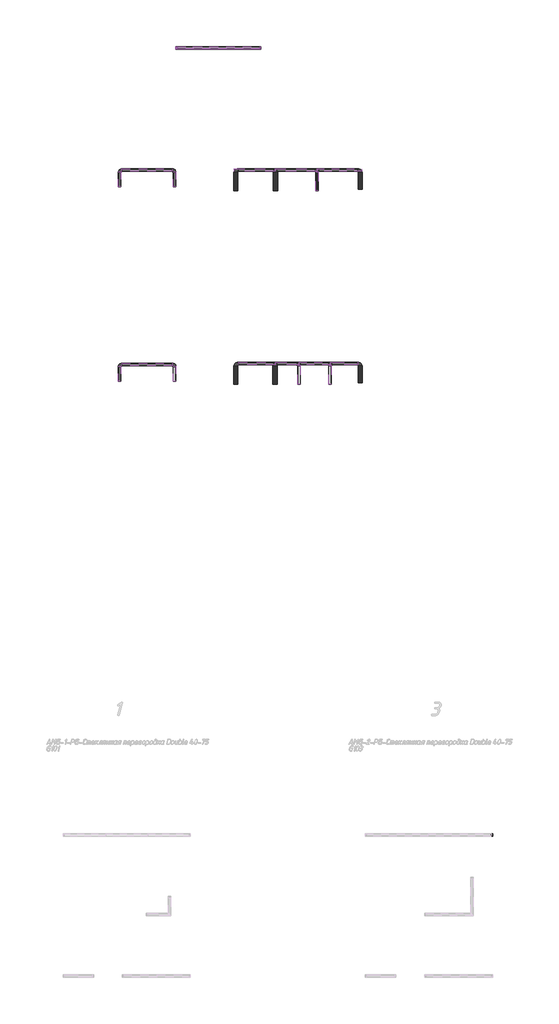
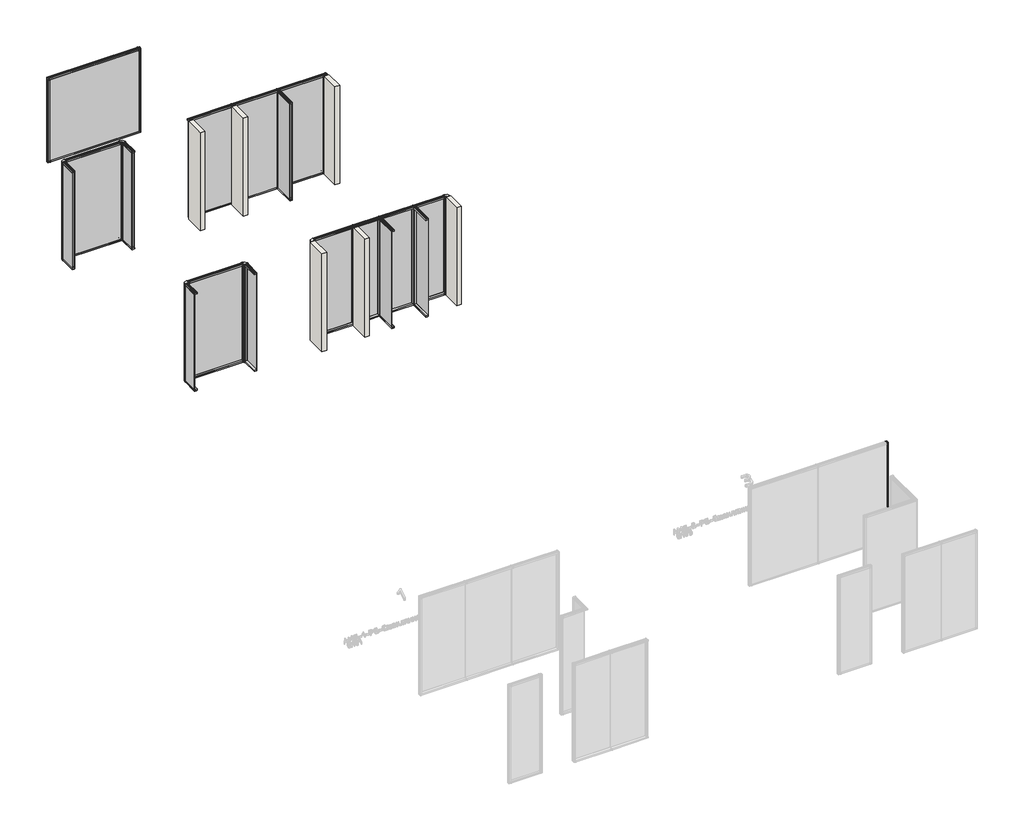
# One storey, part 4 of 22: 53 members, 18 plates, 6 walls.
"""IFC4 building model written with IfcOpenShell, lengths in millimetres."""

from ifc_helpers import new_model, si_unit, origin, origin_with_axes, place, context, project, spatial, polyline, outline, extrude, transform, mapped, element, save
from components import member_062cc966, member_fef25791, member_421a079b, member_e943b3b3, member_93659e9b, member_138647c5, member_008be93e, member_601b8065, member_9edbbed2, member_3a6aa04e, member_36226d30, member_97b0498a, member_a947193e, member_beae20de, member_ba2e8d0c, member_126d7119, member_75674783, member_5e3bff07, member_2dd30770, member_b86de139, member_6870855c, member_839cf36c, member_3ddb2ab7, member_db58016d, member_c9db6dfb, member_577e8d6c, member_68f1cff3, member_d9408e26, member_e7198678, member_f8c30631, member_a8e8a51c, member_a761dcac, member_c1f15f48, member_c068abe3, member_bfae6610, member_e13317de, member_a1fde92c, member_34305b3e, member_fbdf62f5, member_3e5a0c3d, member_f9fa1088, member_f9dfea10, plate_32f0bc6f, plate_69bc51ca, plate_83797a7f, plate_f4132c37, plate_8dcf47b7, plate_fd8922d6, plate_d2337f3b, plate_43e82b48, plate_e51c2bcd, plate_1867f2ba, plate_aca7a658, plate_48e0c3a0, plate_586497ee, plate_0a2dd671, plate_1d4f74eb, plate_3e321998, plate_18017d12, plate_9caeeabb

model = new_model("IFC4")

# Units and contexts
model_context = context("Model", 3, world=origin())
ifc_project = project(units=[si_unit("LENGTHUNIT", "METRE", prefix="MILLI")], contexts=[model_context])

# Site, building, storey
site = spatial("IfcSite", under=ifc_project)
building = spatial("IfcBuilding", under=site)
storey = spatial("IfcBuildingStorey", under=building, Name="Уровень 1", Elevation=0.0)

# Members
placement = place(None, origin())
member_shape = member_062cc966(model_context)
element("IfcMember", 1, ObjectType="Прямоугольный импост : 3-AMG-2-Профиль 40Х75 Верх П", at=placement, inside=storey, context=model_context, shape_type="MappedRepresentation", body=[
    mapped(member_shape, transform((-23109.1896408, -2395.8466032, 41.1), x_axis=(1.0, 0.0, 0.0), y_axis=(0.0, -1.0, 0.0), z_axis=(0.0, 0.0, -1.0))),
])
member_2_shape = member_fef25791(model_context)
element("IfcMember", 2, ObjectType="Прямоугольный импост : AMG-1-Профиль 105Х85 3 грани средний 2 стороны", at=placement, inside=storey, context=model_context, shape_type="MappedRepresentation", body=[
    mapped(member_2_shape, transform((-29516.9435792, 11475.0004129, 41.1), x_axis=(1.0, 0.0, 0.0), y_axis=(0.0, -1.0, 0.0), z_axis=(0.0, 0.0, -1.0))),
])
element("IfcMember", 3, ObjectType="Прямоугольный импост : AMG-1-Профиль 105Х85 3 грани средний 3 стороны Л", at=placement, inside=storey, context=model_context, shape_type="MappedRepresentation", body=[
    mapped(member_2_shape, transform((-28816.9435792, 11475.0004129, 41.1), x_axis=(1.0, 0.0, 0.0), y_axis=(0.0, -1.0, 0.0), z_axis=(0.0, 0.0, -1.0))),
])
member_3_shape = member_421a079b(model_context)
element("IfcMember", 4, ObjectType="Прямоугольный импост : AMG-1-Профиль 105Х85 3 грани средний 3 стороны П", at=placement, inside=storey, context=model_context, shape_type="MappedRepresentation", body=[
    mapped(member_3_shape, transform((-27896.9435792, 11475.0004129, 41.1), x_axis=(1.0, 0.0, 0.0), y_axis=(0.0, -1.0, 0.0), z_axis=(0.0, 0.0, -1.0))),
])
member_4_shape = member_e943b3b3(model_context)
element("IfcMember", 5, ObjectType="Прямоугольный импост : 1-AMG-1-Профиль 40Х75 Верх П", at=placement, inside=storey, context=model_context, shape_type="MappedRepresentation", body=[
    mapped(member_4_shape, transform((-28816.945923, 11425.8504127, 2800.0), x_axis=(0.0, 0.0, 1.0), y_axis=(1.0, 0.0, 0.0), z_axis=(0.0, 1.0, 0.0))),
])
member_5_shape = member_93659e9b(model_context)
element("IfcMember", 6, ObjectType="Прямоугольный импост : 1-AMG-1-Профиль 40Х75 Низ Л", at=placement, inside=storey, context=model_context, shape_type="MappedRepresentation", body=[
    mapped(member_5_shape, transform((-28816.945923, 10865.8504127, 0.0), x_axis=(0.0, 0.0, -1.0), y_axis=(1.0, 0.0, 0.0), z_axis=(0.0, -1.0, 0.0))),
])
member_6_shape = member_138647c5(model_context)
element("IfcMember", 7, ObjectType="Прямоугольный импост : 1-AMG-1-Профиль 40Х75 Верх П", at=placement, inside=storey, context=model_context, shape_type="MappedRepresentation", body=[
    mapped(member_6_shape, transform((-27896.9412354, 11425.8504127, 2800.0), x_axis=(0.0, 0.0, 1.0), y_axis=(1.0, 0.0, 0.0), z_axis=(0.0, 1.0, 0.0))),
])
member_7_shape = member_008be93e(model_context)
element("IfcMember", 8, ObjectType="Прямоугольный импост : 1-AMG-1-Профиль 40Х75 Низ Л", at=placement, inside=storey, context=model_context, shape_type="MappedRepresentation", body=[
    mapped(member_7_shape, transform((-27896.9412354, 10865.8504127, 0.0), x_axis=(0.0, 0.0, -1.0), y_axis=(1.0, 0.0, 0.0), z_axis=(0.0, -1.0, 0.0))),
])
member_8_shape = member_601b8065(model_context)
element("IfcMember", 9, ObjectType="Прямоугольный импост : AMG-2-Профиль 105Х85 3 грани средний 2 стороны", at=placement, inside=storey, context=model_context, shape_type="MappedRepresentation", body=[
    mapped(member_8_shape, transform((-29506.9435792, 17175.0004129, 41.1), x_axis=(1.0, 0.0, 0.0), y_axis=(0.0, -1.0, 0.0), z_axis=(0.0, 0.0, -1.0))),
])
member_9_shape = member_9edbbed2(model_context)
element("IfcMember", 10, ObjectType="Прямоугольный импост : AMG-2-Профиль 105Х85 3 грани средний 3 стороны", at=placement, inside=storey, context=model_context, shape_type="MappedRepresentation", body=[
    mapped(member_9_shape, transform((-28281.9435792, 17175.0004129, 41.1), x_axis=(1.0, 0.0, 0.0), y_axis=(0.0, -1.0, 0.0), z_axis=(0.0, 0.0, -1.0))),
])
member_10_shape = member_3a6aa04e(model_context)
element("IfcMember", 11, ObjectType="Прямоугольный импост : 3-AMG-2-Профиль 40Х75 Верх П", at=placement, inside=storey, context=model_context, shape_type="MappedRepresentation", body=[
    mapped(member_10_shape, transform((-28281.9435792, 17127.2004127, 2800.0), x_axis=(0.0, 0.0, 1.0), y_axis=(1.0, 0.0, 0.0), z_axis=(0.0, 1.0, 0.0))),
])
element("IfcMember", 12, ObjectType="Прямоугольный импост : 3-AMG-2-Профиль 40Х75 Низ Л", at=placement, inside=storey, context=model_context, shape_type="MappedRepresentation", body=[
    mapped(member_10_shape, transform((-28281.9435792, 16567.2004127, 0.0), x_axis=(0.0, 0.0, -1.0), y_axis=(1.0, 0.0, 0.0), z_axis=(0.0, -1.0, 0.0))),
])
member_11_shape = member_36226d30(model_context)
element("IfcMember", 13, ObjectType="Прямоугольный импост : 3-AMG-2-Профиль 40Х75 Верх П", at=placement, inside=storey, context=model_context, shape_type="MappedRepresentation", body=[
    mapped(member_11_shape, transform((-26966.9435792, 17175.0004129, 2800.0), x_axis=(0.0, 0.0, 1.0), y_axis=(0.0, -1.0, 0.0), z_axis=(1.0, 0.0, 0.0))),
])
member_12_shape = member_97b0498a(model_context)
element("IfcMember", 14, ObjectType="Прямоугольный импост : 1-AMG-1-Профиль 40Х75 Низ Л", at=placement, inside=storey, context=model_context, shape_type="MappedRepresentation", body=[
    mapped(member_12_shape, transform((-28816.9435792, 11475.0004129, 0.0), x_axis=(0.0, 0.0, -1.0), y_axis=(0.0, -1.0, 0.0), z_axis=(-1.0, 0.0, 0.0))),
])
member_13_shape = member_a947193e(model_context)
element("IfcMember", 15, ObjectType="Прямоугольный импост : 1-AMG-1-Профиль 40Х75 Верх П", at=placement, inside=storey, context=model_context, shape_type="MappedRepresentation", body=[
    mapped(member_13_shape, transform((-27896.9435792, 11475.0004129, 2800.0), x_axis=(0.0, 0.0, 1.0), y_axis=(0.0, -1.0, 0.0), z_axis=(1.0, 0.0, 0.0))),
])
member_14_shape = member_beae20de(model_context)
element("IfcMember", 16, ObjectType="Прямоугольный импост : 1-AMG-1-Профиль 40Х75 Низ Л", at=placement, inside=storey, context=model_context, shape_type="MappedRepresentation", body=[
    mapped(member_14_shape, transform((-30608.0482668, 11475.0004129, 0.0), x_axis=(0.0, 0.0, -1.0), y_axis=(0.0, -1.0, 0.0), z_axis=(-1.0, 0.0, 0.0))),
])
member_15_shape = member_ba2e8d0c(model_context)
element("IfcMember", 17, ObjectType="Прямоугольный импост : 1-AMG-1-Профиль 40Х75 Верх П", at=placement, inside=storey, context=model_context, shape_type="MappedRepresentation", body=[
    mapped(member_15_shape, transform((-28816.9435792, 11475.0004129, 2800.0), x_axis=(0.0, 0.0, 1.0), y_axis=(0.0, -1.0, 0.0), z_axis=(1.0, 0.0, 0.0))),
])
member_16_shape = member_126d7119(model_context)
element("IfcMember", 18, ObjectType="Прямоугольный импост : 1-AMG-1-Профиль 40Х75 Низ Л", at=placement, inside=storey, context=model_context, shape_type="MappedRepresentation", body=[
    mapped(member_16_shape, transform((-29516.9435792, 11475.0004129, 0.0), x_axis=(0.0, 0.0, -1.0), y_axis=(0.0, -1.0, 0.0), z_axis=(-1.0, 0.0, 0.0))),
])
member_17_shape = member_75674783(model_context)
element("IfcMember", 19, ObjectType="Прямоугольный импост : 1-AMG-1-Профиль 40Х75 Низ Л", at=placement, inside=storey, context=model_context, shape_type="MappedRepresentation", body=[
    mapped(member_17_shape, transform((-27896.9435792, 11475.0004129, 0.0), x_axis=(0.0, 0.0, -1.0), y_axis=(0.0, -1.0, 0.0), z_axis=(-1.0, 0.0, 0.0))),
])
member_18_shape = member_5e3bff07(model_context)
element("IfcMember", 20, ObjectType="Прямоугольный импост : 1-AMG-1-Профиль 40Х75 Верх П", at=placement, inside=storey, context=model_context, shape_type="MappedRepresentation", body=[
    mapped(member_18_shape, transform((-27075.8388917, 11475.0004129, 2800.0), x_axis=(0.0, 0.0, 1.0), y_axis=(0.0, -1.0, 0.0), z_axis=(1.0, 0.0, 0.0))),
])
member_19_shape = member_2dd30770(model_context)
element("IfcMember", 21, ObjectType="Прямоугольный импост : AMG-1-Профиль 85Х85 Угловой 1 сторона Верт П", at=placement, inside=storey, context=model_context, shape_type="MappedRepresentation", body=[
    mapped(member_19_shape, transform((-26966.9435792, 11475.0004129, 0.0), x_axis=(1.0, 0.0, 0.0), y_axis=(0.0, -1.0, 0.0), z_axis=(0.0, 0.0, -1.0))),
])
member_20_shape = member_b86de139(model_context)
element("IfcMember", 22, ObjectType="Прямоугольный импост : 1-AMG-1-Профиль 40Х75 Верх П", at=placement, inside=storey, context=model_context, shape_type="MappedRepresentation", body=[
    mapped(member_20_shape, transform((-29516.9435792, 11475.0004129, 2800.0), x_axis=(0.0, 0.0, 1.0), y_axis=(0.0, -1.0, 0.0), z_axis=(1.0, 0.0, 0.0))),
])
element("IfcMember", 23, ObjectType="Прямоугольный импост : AMG-1-Профиль 85Х85 Угловой 1 сторона Верт Л", at=placement, inside=storey, context=model_context, shape_type="MappedRepresentation", body=[
    mapped(member_19_shape, transform((-30716.9435792, 11475.0004129, 2800.0), x_axis=(-1.0, 0.0, 0.0), y_axis=(0.0, -1.0, 0.0), z_axis=(0.0, 0.0, 1.0))),
])
member_21_shape = member_6870855c(model_context)
element("IfcMember", 24, ObjectType="Прямоугольный импост : AMG-1-Профиль 85Х85 Угловой 2 стороны Верт Л", at=placement, inside=storey, context=model_context, shape_type="MappedRepresentation", body=[
    mapped(member_21_shape, transform((-34133.7707148, 11447.231791, 2800.0), x_axis=(-1.0, 0.0, 0.0), y_axis=(0.0, -1.0, 0.0), z_axis=(0.0, 0.0, 1.0))),
])
member_22_shape = member_839cf36c(model_context)
element("IfcMember", 25, ObjectType="Прямоугольный импост : 1-AMG-1-Профиль 40Х75 Верх П", at=placement, inside=storey, context=model_context, shape_type="MappedRepresentation", body=[
    mapped(member_22_shape, transform((-32542.6660272, 11447.231791, 2800.0), x_axis=(0.0, 0.0, 1.0), y_axis=(0.0, -1.0, 0.0), z_axis=(1.0, 0.0, 0.0))),
])
member_23_shape = member_3ddb2ab7(model_context)
element("IfcMember", 26, ObjectType="Прямоугольный импост : 1-AMG-1-Профиль 40Х75 Низ Л", at=placement, inside=storey, context=model_context, shape_type="MappedRepresentation", body=[
    mapped(member_23_shape, transform((-34024.8754023, 11447.231791, 0.0), x_axis=(0.0, 0.0, -1.0), y_axis=(0.0, -1.0, 0.0), z_axis=(-1.0, 0.0, 0.0))),
])
element("IfcMember", 27, ObjectType="Прямоугольный импост : AMG-1-Профиль 85Х85 Угловой 2 стороны Верт П", at=placement, inside=storey, context=model_context, shape_type="MappedRepresentation", body=[
    mapped(member_21_shape, transform((-32433.7707148, 11447.231791, 0.0), x_axis=(1.0, 0.0, 0.0), y_axis=(0.0, -1.0, 0.0), z_axis=(0.0, 0.0, -1.0))),
])
member_24_shape = member_db58016d(model_context)
element("IfcMember", 28, ObjectType="Прямоугольный импост : 1-AMG-1-Профиль 40Х75 Верх П", at=placement, inside=storey, context=model_context, shape_type="MappedRepresentation", body=[
    mapped(member_24_shape, transform((-32476.2904156, 11397.4720557, 2800.0), x_axis=(0.0, 0.0, 1.0), y_axis=(1.0, 0.0, 0.0), z_axis=(0.0, 1.0, 0.0))),
])
member_25_shape = member_c9db6dfb(model_context)
element("IfcMember", 29, ObjectType="Прямоугольный импост : 1-AMG-1-Профиль 40Х75 Низ Л", at=placement, inside=storey, context=model_context, shape_type="MappedRepresentation", body=[
    mapped(member_25_shape, transform((-32476.2904156, 10957.4720557, 0.0), x_axis=(0.0, 0.0, -1.0), y_axis=(1.0, 0.0, 0.0), z_axis=(0.0, -1.0, 0.0))),
])
member_26_shape = member_577e8d6c(model_context)
element("IfcMember", 30, ObjectType="Прямоугольный импост : 1-AMG-1-Профиль 40Х75 Верх П", at=placement, inside=storey, context=model_context, shape_type="MappedRepresentation", body=[
    mapped(member_26_shape, transform((-34091.2510139, 11397.4720557, 2800.0), x_axis=(0.0, 0.0, 1.0), y_axis=(1.0, 0.0, 0.0), z_axis=(0.0, 1.0, 0.0))),
])
member_27_shape = member_68f1cff3(model_context)
element("IfcMember", 31, ObjectType="Прямоугольный импост : 1-AMG-1-Профиль 40Х75 Низ Л", at=placement, inside=storey, context=model_context, shape_type="MappedRepresentation", body=[
    mapped(member_27_shape, transform((-34091.2510139, 10957.4720557, 0.0), x_axis=(0.0, 0.0, -1.0), y_axis=(1.0, 0.0, 0.0), z_axis=(0.0, -1.0, 0.0))),
])
member_28_shape = member_d9408e26(model_context)
element("IfcMember", 32, ObjectType="Прямоугольный импост : 3-AMG-2-Профиль 40Х75 Верх П", at=placement, inside=storey, context=model_context, shape_type="MappedRepresentation", body=[
    mapped(member_28_shape, transform((-32542.6636833, 17175.0004129, 2800.0), x_axis=(0.0, 0.0, 1.0), y_axis=(0.0, -1.0, 0.0), z_axis=(1.0, 0.0, 0.0))),
])
element("IfcMember", 33, ObjectType="Прямоугольный импост : 3-AMG-2-Профиль 40Х75 Низ Л", at=placement, inside=storey, context=model_context, shape_type="MappedRepresentation", body=[
    mapped(member_28_shape, transform((-34024.8777462, 17175.0004129, 0.0), x_axis=(0.0, 0.0, -1.0), y_axis=(0.0, -1.0, 0.0), z_axis=(-1.0, 0.0, 0.0))),
])
member_29_shape = member_e7198678(model_context)
element("IfcMember", 34, ObjectType="Прямоугольный импост : 3-AMG-2-Профиль 40Х75 Верх П", at=placement, inside=storey, context=model_context, shape_type="MappedRepresentation", body=[
    mapped(member_29_shape, transform((-34091.2510139, 17125.2406775, 2800.0), x_axis=(0.0, 0.0, 1.0), y_axis=(1.0, 0.0, 0.0), z_axis=(0.0, 1.0, 0.0))),
])
element("IfcMember", 35, ObjectType="Прямоугольный импост : 3-AMG-2-Профиль 40Х75 Низ Л", at=placement, inside=storey, context=model_context, shape_type="MappedRepresentation", body=[
    mapped(member_29_shape, transform((-34091.2510139, 16685.2406775, 0.0), x_axis=(0.0, 0.0, -1.0), y_axis=(1.0, 0.0, 0.0), z_axis=(0.0, -1.0, 0.0))),
])
member_30_shape = member_f8c30631(model_context)
element("IfcMember", 36, ObjectType="Прямоугольный импост : 3-AMG-2-Профиль 40Х75 Верх П", at=placement, inside=storey, context=model_context, shape_type="MappedRepresentation", body=[
    mapped(member_30_shape, transform((-32476.2904156, 17125.2406775, 2800.0), x_axis=(0.0, 0.0, 1.0), y_axis=(1.0, 0.0, 0.0), z_axis=(0.0, 1.0, 0.0))),
])
element("IfcMember", 37, ObjectType="Прямоугольный импост : 3-AMG-2-Профиль 40Х75 Низ Л", at=placement, inside=storey, context=model_context, shape_type="MappedRepresentation", body=[
    mapped(member_30_shape, transform((-32476.2904156, 16685.2406775, 0.0), x_axis=(0.0, 0.0, -1.0), y_axis=(1.0, 0.0, 0.0), z_axis=(0.0, -1.0, 0.0))),
])
member_31_shape = member_a8e8a51c(model_context)
element("IfcMember", 38, ObjectType="Прямоугольный импост : AMG-2-Профиль 85Х85 Угловой 1 сторона Верт Л", at=placement, inside=storey, context=model_context, shape_type="MappedRepresentation", body=[
    mapped(member_31_shape, transform((-30716.9435792, 17175.0004129, 2758.9), x_axis=(-1.0, 0.0, 0.0), y_axis=(0.0, -1.0, 0.0), z_axis=(0.0, 0.0, 1.0))),
])
member_32_shape = member_a761dcac(model_context)
element("IfcMember", 39, ObjectType="Прямоугольный импост : 3-AMG-2-Профиль 40Х75 Низ Л", at=placement, inside=storey, context=model_context, shape_type="MappedRepresentation", body=[
    mapped(member_32_shape, transform((-28281.9435792, 17175.0004129, 0.0), x_axis=(0.0, 0.0, -1.0), y_axis=(0.0, -1.0, 0.0), z_axis=(-1.0, 0.0, 0.0))),
])
element("IfcMember", 40, ObjectType="Прямоугольный импост : AMG-2-Профиль 85Х85 Угловой 1 сторона Верт П", at=placement, inside=storey, context=model_context, shape_type="MappedRepresentation", body=[
    mapped(member_31_shape, transform((-26966.9435792, 17175.0004129, 0.0), x_axis=(1.0, 0.0, 0.0), y_axis=(0.0, -1.0, 0.0), z_axis=(0.0, 0.0, -1.0))),
])
member_33_shape = member_c1f15f48(model_context)
element("IfcMember", 41, ObjectType="Прямоугольный импост : AMG-2-Профиль 85Х85 Угловой 2 стороны Верт П", at=placement, inside=storey, context=model_context, shape_type="MappedRepresentation", body=[
    mapped(member_33_shape, transform((-32433.7707148, 17175.0004129, 0.0), x_axis=(1.0, 0.0, 0.0), y_axis=(0.0, -1.0, 0.0), z_axis=(0.0, 0.0, -1.0))),
])
element("IfcMember", 42, ObjectType="Прямоугольный импост : AMG-2-Профиль 85Х85 Угловой 2 стороны Верт Л", at=placement, inside=storey, context=model_context, shape_type="MappedRepresentation", body=[
    mapped(member_33_shape, transform((-34133.7707148, 17175.0004129, 2800.0), x_axis=(-1.0, 0.0, 0.0), y_axis=(0.0, -1.0, 0.0), z_axis=(0.0, 0.0, 1.0))),
])
member_34_shape = member_c068abe3(model_context)
element("IfcMember", 43, ObjectType="Прямоугольный импост : 3-AMG-2-Профиль 40Х75 Верх П", at=placement, inside=storey, context=model_context, shape_type="MappedRepresentation", body=[
    mapped(member_34_shape, transform((-29506.9435792, 17175.0004129, 2800.0), x_axis=(0.0, 0.0, 1.0), y_axis=(0.0, -1.0, 0.0), z_axis=(1.0, 0.0, 0.0))),
])
member_35_shape = member_bfae6610(model_context)
element("IfcMember", 44, ObjectType="Прямоугольный импост : 3-AMG-2-Профиль 40Х75 Верх П", at=placement, inside=storey, context=model_context, shape_type="MappedRepresentation", body=[
    mapped(member_35_shape, transform((-28281.9435792, 17175.0004129, 2800.0), x_axis=(0.0, 0.0, 1.0), y_axis=(0.0, -1.0, 0.0), z_axis=(1.0, 0.0, 0.0))),
])
member_36_shape = member_e13317de(model_context)
element("IfcMember", 45, ObjectType="Прямоугольный импост : 3-AMG-2-Профиль 40Х75 Низ Л", at=placement, inside=storey, context=model_context, shape_type="MappedRepresentation", body=[
    mapped(member_36_shape, transform((-30608.0482668, 17175.0004129, 0.0), x_axis=(0.0, 0.0, -1.0), y_axis=(0.0, -1.0, 0.0), z_axis=(-1.0, 0.0, 0.0))),
])
element("IfcMember", 46, ObjectType="Прямоугольный импост : 3-AMG-2-Профиль 40Х75 Низ Л", at=placement, inside=storey, context=model_context, shape_type="MappedRepresentation", body=[
    mapped(member_35_shape, transform((-29506.9435792, 17175.0004129, 0.0), x_axis=(0.0, 0.0, -1.0), y_axis=(0.0, -1.0, 0.0), z_axis=(-1.0, 0.0, 0.0))),
])
member_37_shape = member_a1fde92c(model_context)
element("IfcMember", 47, ObjectType="Прямоугольный импост : 3-AMG-2-Профиль 40Х75 Верх П", at=placement, inside=storey, context=model_context, shape_type="MappedRepresentation", body=[
    mapped(member_37_shape, transform((-29933.7707148, 20775.0004129, 41.1), x_axis=(1.0, 0.0, 0.0), y_axis=(0.0, -1.0, 0.0), z_axis=(0.0, 0.0, -1.0))),
])
member_38_shape = member_34305b3e(model_context)
element("IfcMember", 48, ObjectType="Прямоугольный импост : 3-AMG-2-Профиль 40Х75 Низ Л", at=placement, inside=storey, context=model_context, shape_type="MappedRepresentation", body=[
    mapped(member_38_shape, transform((-32433.7707148, 20775.0004129, 2360.6073598), x_axis=(-1.0, 0.0, 0.0), y_axis=(0.0, -1.0, 0.0), z_axis=(0.0, 0.0, 1.0))),
])
member_39_shape = member_fbdf62f5(model_context)
element("IfcMember", 49, ObjectType="Прямоугольный импост : 3-AMG-2-Профиль 40Х75 Верх П", at=placement, inside=storey, context=model_context, shape_type="MappedRepresentation", body=[
    mapped(member_39_shape, transform((-29933.7707148, 20775.0004129, 2357.6685559), x_axis=(1.0, 0.0, 0.0), y_axis=(0.0, -1.0, 0.0), z_axis=(0.0, 0.0, -1.0))),
])
member_40_shape = member_3e5a0c3d(model_context)
element("IfcMember", 50, ObjectType="Прямоугольный импост : 3-AMG-2-Профиль 40Х75 Низ Л", at=placement, inside=storey, context=model_context, shape_type="MappedRepresentation", body=[
    mapped(member_40_shape, transform((-32433.7707148, 20775.0004129, 2357.6685559), x_axis=(-1.0, 0.0, 0.0), y_axis=(0.0, -1.0, 0.0), z_axis=(0.0, 0.0, 1.0))),
])
member_41_shape = member_f9fa1088(model_context)
element("IfcMember", 51, ObjectType="Прямоугольный импост : 3-AMG-2-Профиль 40Х75 Верх П", at=placement, inside=storey, context=model_context, shape_type="MappedRepresentation", body=[
    mapped(member_41_shape, transform((-29974.8707148, 20775.0004129, 2401.7073598), x_axis=(0.0, 0.0, 1.0), y_axis=(0.0, -1.0, 0.0), z_axis=(1.0, 0.0, 0.0))),
])
element("IfcMember", 52, ObjectType="Прямоугольный импост : 3-AMG-2-Профиль 40Х75 Низ Л", at=placement, inside=storey, context=model_context, shape_type="MappedRepresentation", body=[
    mapped(member_41_shape, transform((-32392.6707148, 20775.0004129, 0.0), x_axis=(0.0, 0.0, -1.0), y_axis=(0.0, -1.0, 0.0), z_axis=(-1.0, 0.0, 0.0))),
])
member_42_shape = member_f9dfea10(model_context)
element("IfcMember", 53, ObjectType="Прямоугольный импост : 12-AMG-2-Профиль жалюзи горизонтальный", at=placement, inside=storey, context=model_context, shape_type="MappedRepresentation", body=[
    mapped(member_42_shape, transform((-29974.8707148, 20775.0004129, 2357.6685559), x_axis=(0.0, 0.0, 1.0), y_axis=(0.0, -1.0, 0.0), z_axis=(1.0, 0.0, 0.0))),
])

# Plates
plate_shape = plate_32f0bc6f(model_context)
element("IfcPlate", 54, ObjectType="1-AMG-1-Панель одинарный витраж 8, 10 : Смещение 32 Толщина 8mm", at=placement, inside=storey, context=model_context, shape_type="MappedRepresentation", body=[
    mapped(plate_shape, transform((-28816.945923, 11145.8504127, 41.1), x_axis=(0.0, 1.0, 0.0), y_axis=(-1.0, 0.0, 0.0), z_axis=(0.0, 0.0, 1.0))),
])
plate_2_shape = plate_69bc51ca(model_context)
element("IfcPlate", 55, ObjectType="1-AMG-1-Панель одинарный витраж 8, 10 : Смещение 32 Толщина 8mm", at=placement, inside=storey, context=model_context, shape_type="MappedRepresentation", body=[
    mapped(plate_2_shape, transform((-27896.9412354, 11145.8504127, 41.1), x_axis=(0.0, 1.0, 0.0), y_axis=(-1.0, 0.0, 0.0), z_axis=(0.0, 0.0, 1.0))),
])
plate_3_shape = plate_83797a7f(model_context)
element("IfcPlate", 56, ObjectType="3-AMG-2-Панель двойной витраж 8, 10 : Смещение 32 Толщина 8mm", at=placement, inside=storey, context=model_context, shape_type="MappedRepresentation", body=[
    mapped(plate_3_shape, transform((-28281.9435792, 16847.2004127, 41.1), x_axis=(0.0, 1.0, 0.0), y_axis=(-1.0, 0.0, 0.0), z_axis=(0.0, 0.0, 1.0))),
])
plate_4_shape = plate_f4132c37(model_context)
element("IfcPlate", 57, ObjectType="1-AMG-1-Панель одинарный витраж 8, 10 : Смещение 32 Толщина 8mm", at=placement, inside=storey, context=model_context, shape_type="MappedRepresentation", body=[
    mapped(plate_4_shape, transform((-30085.1970949, 11475.0004129, 41.1), x_axis=(1.0, 0.0, 0.0), y_axis=(0.0, 1.0, 0.0), z_axis=(0.0, 0.0, 1.0))),
])
plate_5_shape = plate_8dcf47b7(model_context)
element("IfcPlate", 58, ObjectType="1-AMG-1-Панель одинарный витраж 8, 10 : Смещение 32 Толщина 8mm", at=placement, inside=storey, context=model_context, shape_type="MappedRepresentation", body=[
    mapped(plate_5_shape, transform((-29166.945923, 11475.0004129, 41.1), x_axis=(1.0, 0.0, 0.0), y_axis=(0.0, 1.0, 0.0), z_axis=(0.0, 0.0, 1.0))),
])
plate_6_shape = plate_fd8922d6(model_context)
element("IfcPlate", 59, ObjectType="1-AMG-1-Панель одинарный витраж 8, 10 : Смещение 32 Толщина 8mm", at=placement, inside=storey, context=model_context, shape_type="MappedRepresentation", body=[
    mapped(plate_6_shape, transform((-32476.2904156, 11177.4720557, 41.1), x_axis=(0.0, 1.0, 0.0), y_axis=(-1.0, 0.0, 0.0), z_axis=(0.0, 0.0, 1.0))),
])
plate_7_shape = plate_d2337f3b(model_context)
element("IfcPlate", 60, ObjectType="1-AMG-1-Панель одинарный витраж 8, 10 : Смещение 32 Толщина 8mm", at=placement, inside=storey, context=model_context, shape_type="MappedRepresentation", body=[
    mapped(plate_7_shape, transform((-34091.2510139, 11177.4720557, 41.1), x_axis=(0.0, 1.0, 0.0), y_axis=(-1.0, 0.0, 0.0), z_axis=(0.0, 0.0, 1.0))),
])
plate_8_shape = plate_43e82b48(model_context)
element("IfcPlate", 61, ObjectType="1-AMG-1-Панель одинарный витраж 8, 10 : Смещение 32 Толщина 8mm", at=placement, inside=storey, context=model_context, shape_type="MappedRepresentation", body=[
    mapped(plate_8_shape, transform((-33283.7707148, 11447.231791, 41.1), x_axis=(1.0, 0.0, 0.0), y_axis=(0.0, 1.0, 0.0), z_axis=(0.0, 0.0, 1.0))),
])
plate_9_shape = plate_e51c2bcd(model_context)
element("IfcPlate", 62, ObjectType="3-AMG-2-Панель двойной витраж 8, 10 : Смещение 32 Толщина 8mm", at=placement, inside=storey, context=model_context, shape_type="MappedRepresentation", body=[
    mapped(plate_9_shape, transform((-34091.2510139, 16905.2406775, 41.1), x_axis=(0.0, 1.0, 0.0), y_axis=(-1.0, 0.0, 0.0), z_axis=(0.0, 0.0, 1.0))),
])
plate_10_shape = plate_1867f2ba(model_context)
element("IfcPlate", 63, ObjectType="3-AMG-2-Панель двойной витраж 8, 10 : Смещение 32 Толщина 8mm", at=placement, inside=storey, context=model_context, shape_type="MappedRepresentation", body=[
    mapped(plate_10_shape, transform((-32476.2904156, 16905.2406775, 41.1), x_axis=(0.0, 1.0, 0.0), y_axis=(-1.0, 0.0, 0.0), z_axis=(0.0, 0.0, 1.0))),
])
plate_11_shape = plate_aca7a658(model_context)
element("IfcPlate", 64, ObjectType="3-AMG-2-Панель двойной витраж 8, 10 : Смещение 32 Толщина 8mm", at=placement, inside=storey, context=model_context, shape_type="MappedRepresentation", body=[
    mapped(plate_11_shape, transform((-33283.7707148, 17175.0004129, 41.1), x_axis=(1.0, 0.0, 0.0), y_axis=(0.0, 1.0, 0.0), z_axis=(0.0, 0.0, 1.0))),
])
plate_12_shape = plate_48e0c3a0(model_context)
element("IfcPlate", 65, ObjectType="1-AMG-1-Панель одинарный витраж 8, 10 : Смещение 32 Толщина 8mm", at=placement, inside=storey, context=model_context, shape_type="MappedRepresentation", body=[
    mapped(plate_12_shape, transform((-28356.9435792, 11475.0004129, 41.1), x_axis=(1.0, 0.0, 0.0), y_axis=(0.0, 1.0, 0.0), z_axis=(0.0, 0.0, 1.0))),
])
plate_13_shape = plate_586497ee(model_context)
element("IfcPlate", 66, ObjectType="1-AMG-1-Панель одинарный витраж 8, 10 : Смещение 32 Толщина 8mm", at=placement, inside=storey, context=model_context, shape_type="MappedRepresentation", body=[
    mapped(plate_13_shape, transform((-27463.6900635, 11475.0004129, 41.1), x_axis=(1.0, 0.0, 0.0), y_axis=(0.0, 1.0, 0.0), z_axis=(0.0, 0.0, 1.0))),
])
plate_14_shape = plate_0a2dd671(model_context)
element("IfcPlate", 67, ObjectType="3-AMG-2-Панель двойной витраж 8, 10 : Смещение 32 Толщина 8mm", at=placement, inside=storey, context=model_context, shape_type="MappedRepresentation", body=[
    mapped(plate_14_shape, transform((-27656.1924073, 17175.0004129, 41.1), x_axis=(1.0, 0.0, 0.0), y_axis=(0.0, 1.0, 0.0), z_axis=(0.0, 0.0, 1.0))),
])
plate_15_shape = plate_1d4f74eb(model_context)
element("IfcPlate", 68, ObjectType="3-AMG-2-Панель двойной витраж 8, 10 : Смещение 32 Толщина 8mm", at=placement, inside=storey, context=model_context, shape_type="MappedRepresentation", body=[
    mapped(plate_15_shape, transform((-30080.1970949, 17175.0004129, 41.1), x_axis=(1.0, 0.0, 0.0), y_axis=(0.0, 1.0, 0.0), z_axis=(0.0, 0.0, 1.0))),
])
plate_16_shape = plate_3e321998(model_context)
element("IfcPlate", 69, ObjectType="3-AMG-2-Панель двойной витраж 8, 10 : Смещение 32 Толщина 8mm", at=placement, inside=storey, context=model_context, shape_type="MappedRepresentation", body=[
    mapped(plate_16_shape, transform((-28894.445923, 17175.0004129, 41.1), x_axis=(1.0, 0.0, 0.0), y_axis=(0.0, 1.0, 0.0), z_axis=(0.0, 0.0, 1.0))),
])
plate_17_shape = plate_18017d12(model_context)
element("IfcPlate", 70, ObjectType="AMG-2-Панель двойной витраж 8, 10 жалюзи : Смещение 32 Толщина 8mm", at=placement, inside=storey, context=model_context, shape_type="MappedRepresentation", body=[
    mapped(plate_17_shape, transform((-31183.7707148, 20775.0004129, 41.1), x_axis=(1.0, 0.0, 0.0), y_axis=(0.0, 1.0, 0.0), z_axis=(0.0, 0.0, 1.0))),
])
plate_18_shape = plate_9caeeabb(model_context)
element("IfcPlate", 71, ObjectType="3-AMG-2-Панель двойной витраж 8, 10 : Смещение 32 Толщина 8mm", at=placement, inside=storey, context=model_context, shape_type="MappedRepresentation", body=[
    mapped(plate_18_shape, transform((-31183.7707148, 20775.0004129, 2357.7062121), x_axis=(1.0, 0.0, 0.0), y_axis=(0.0, 1.0, 0.0), z_axis=(0.0, 0.0, 1.0))),
])

# Walls
element("IfcWall", 72, ObjectType="31_", at=placement, inside=storey, context=model_context, shape_type="SweptSolid", body=[
    extrude(outline(polyline([(-30736.7220662, 10865.8504127), (-30736.7220662, 11408.2004127), (-30611.7220662, 11408.2004127), (-30611.7220662, 10865.8504127), (-30736.7220662, 10865.8504127)])), origin_with_axes(), (0.0, 0.0, 1.0), 2800.0),
])
element("IfcWall", 73, ObjectType="31_", at=placement, inside=storey, context=model_context, shape_type="SweptSolid", body=[
    extrude(outline(polyline([(-27071.587872, 10908.3025513), (-27071.587872, 11408.2004127), (-26946.587872, 11408.2004127), (-26946.587872, 10908.3025513), (-27071.587872, 10908.3025513)])), origin_with_axes(), (0.0, 0.0, 1.0), 2800.0),
])
element("IfcWall", 74, ObjectType="31_", at=placement, inside=storey, context=model_context, shape_type="SweptSolid", body=[
    extrude(outline(polyline([(-29568.9348396, 16567.2004127), (-29568.9348396, 17112.2004127), (-29443.9348396, 17112.2004127), (-29443.9348396, 16567.2004127), (-29568.9348396, 16567.2004127)])), origin_with_axes(), (0.0, 0.0, 1.0), 2800.0),
])
element("IfcWall", 75, ObjectType="31_", at=placement, inside=storey, context=model_context, shape_type="SweptSolid", body=[
    extrude(outline(polyline([(-29578.8745283, 10865.8504127), (-29578.8745283, 11412.2004127), (-29453.8745283, 11412.2004127), (-29453.8745283, 10865.8504127), (-29578.8745283, 10865.8504127)])), origin_with_axes(), (0.0, 0.0, 1.0), 2800.0),
])
element("IfcWall", 76, ObjectType="31_", at=placement, inside=storey, context=model_context, shape_type="SweptSolid", body=[
    extrude(outline(polyline([(-30736.7220662, 16565.8504127), (-30736.7220662, 17108.2004127), (-30611.7220662, 17108.2004127), (-30611.7220662, 16565.8504127), (-30736.7220662, 16565.8504127)])), origin_with_axes(), (0.0, 0.0, 1.0), 2800.0),
])
element("IfcWall", 77, ObjectType="31_", at=placement, inside=storey, context=model_context, shape_type="SweptSolid", body=[
    extrude(outline(polyline([(-27071.587872, 16608.3025513), (-27071.587872, 17108.2004127), (-26946.587872, 17108.2004127), (-26946.587872, 16608.3025513), (-27071.587872, 16608.3025513)])), origin_with_axes(), (0.0, 0.0, 1.0), 2800.0),
])

save(model, "model.ifc")
